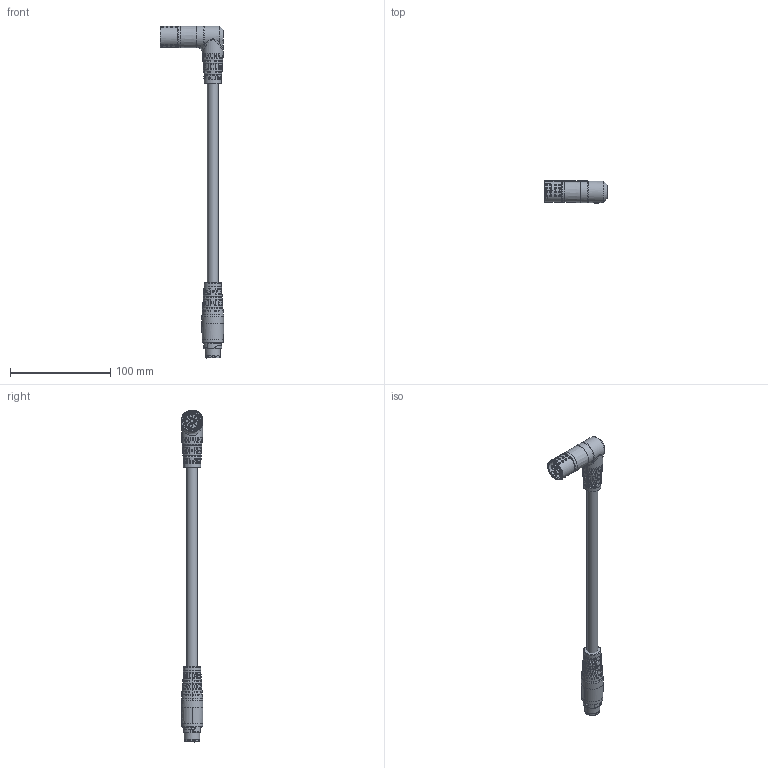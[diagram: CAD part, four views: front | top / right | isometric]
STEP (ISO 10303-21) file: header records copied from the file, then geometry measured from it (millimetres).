
FILE_DESCRIPTION (( 'STEP AP203' ), '1' );
FILE_NAME ('1137645_W-TEC_15M_STI_BU-90°R_STEP.STEP', '2023-09-07T05:18:45', ( '' ), ( '' ), 'SwSTEP 2.0', 'SolidWorks 2021', '' );
FILE_SCHEMA (( 'CONFIG_CONTROL_DESIGN' ));
Length unit declared in the file: millimetre
Products named in the file (1): 1137645_W-TEC_15M_STI_BU-90訌_STEP
Bounding box: 63.15 x 21.84 x 331.3 mm (x, y, z)
Surface area: 22888.9 mm2 (no closed solid volume)
Topology: 0 solids, 26 shells, 689 faces, 2897 edges, 2054 vertices
Faces by surface type: bspline 364, plane 144, cylinder 112, cone 60, torus 9
Full cylindrical faces by diameter (mm): 1.6 x3, 3.3 x6, 4.2 x3, 4.4 x3, 10.6 x1, 15.2 x1, 15.4 x1, 17.384 x1, 17.397 x1, 21.038 x1, 21.24 x1, 21.72 x2
Entity records: 52078 total; most frequent: CARTESIAN_POINT 34004, ORIENTED_EDGE 4117, EDGE_CURVE 2772, DIRECTION 2371, VERTEX_POINT 2028, B_SPLINE_CURVE_WITH_KNOTS 1389, AXIS2_PLACEMENT_3D 891, EDGE_LOOP 814
